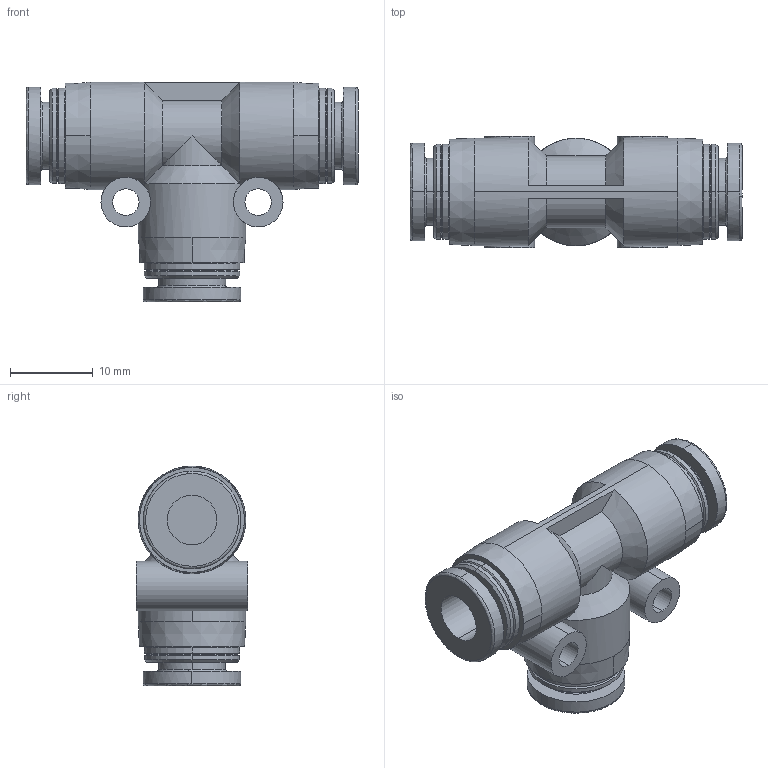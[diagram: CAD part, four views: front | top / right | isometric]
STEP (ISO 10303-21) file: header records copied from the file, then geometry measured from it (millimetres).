
FILE_DESCRIPTION (( 'STEP AP214' ), '1' );
FILE_NAME ('APT6.STEP', '2019-12-05T06:46:34', ( '微软用户' ), ( '微软中国' ), 'SwSTEP 2.0', 'SolidWorks 2016', '' );
FILE_SCHEMA (( 'AUTOMOTIVE_DESIGN' ));
Length unit declared in the file: millimetre
Products named in the file (1): APT6
Bounding box: 40.1 x 13.5 x 26.55 mm (x, y, z)
Volume: 5141.3 mm3; surface area: 4326.2 mm2
Topology: 1 solids, 1 shells, 122 faces, 300 edges, 192 vertices
Faces by surface type: cylinder 46, cone 43, plane 21, bspline 12
Entity records: 4424 total; most frequent: CARTESIAN_POINT 1511, DIRECTION 632, ORIENTED_EDGE 600, EDGE_CURVE 300, AXIS2_PLACEMENT_3D 273, VERTEX_POINT 192, CIRCLE 162, EDGE_LOOP 138
